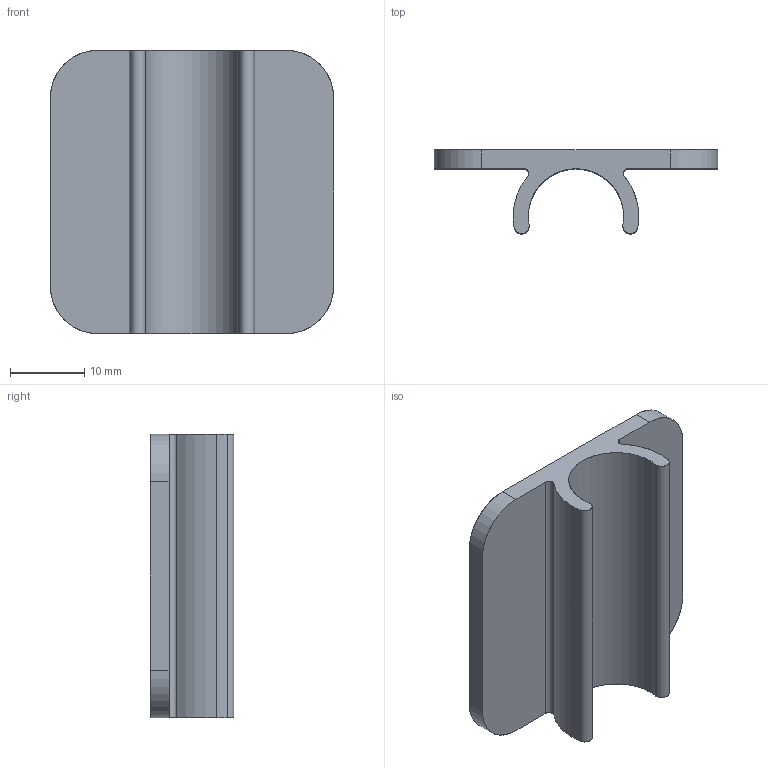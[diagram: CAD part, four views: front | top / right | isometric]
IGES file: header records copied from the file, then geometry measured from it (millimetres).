
Start section: SolidWorks IGES file using analytic representation for surfaces
Global section: file name: C:\Working\.5 Inch Coupling\DRP-002-0102-00.IGS; native system: SolidWorks 2010; preprocessor: SolidWorks 2010; author: mbush2; date: 100812.120406; units: inch
Bounding box: 38.1 x 11.26 x 38.1 mm (x, y, z)
Surface area: 4504.6 mm2 (no closed solid volume)
Topology: 0 solids, 0 shells, 23 faces, 290 edges, 290 vertices
Faces by surface type: revolution 16, bspline 7
